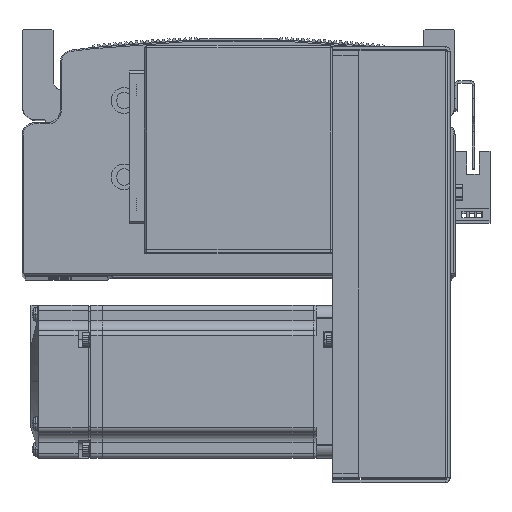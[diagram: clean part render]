
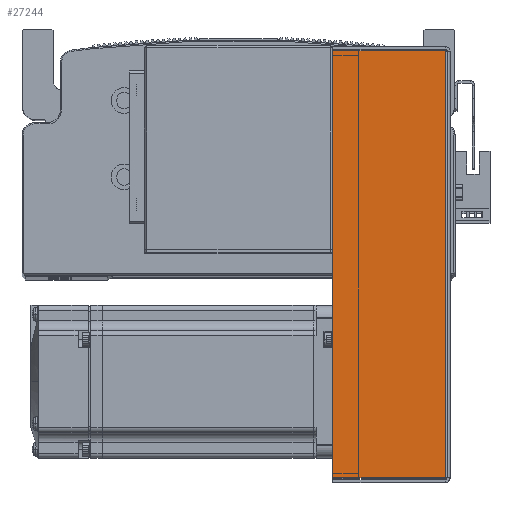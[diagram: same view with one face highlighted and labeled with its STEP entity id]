
A CAD part, top view. The second image highlights one B-rep face of the part: STEP entity #27244.
In plain terms, the highlighted planar face has unit normal (0, 0, 1) as drawn and (0, 0, -1) by its records, which use the part's own axes.
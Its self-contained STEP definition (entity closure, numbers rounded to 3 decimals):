
#5076 = EDGE_CURVE ( 'NONE', #38077, #38317, #18812, .T. ) ;
#5080 = EDGE_CURVE ( 'NONE', #38077, #38147, #18836, .T. ) ;
#5088 = EDGE_CURVE ( 'NONE', #38317, #38141, #18843, .T. ) ;
#5090 = EDGE_CURVE ( 'NONE', #38147, #38141, #18840, .T. ) ;
#18804 = VECTOR ( 'NONE', #81633, 1000. ) ;
#18811 = VECTOR ( 'NONE', #81609, 1000. ) ;
#18812 = LINE ( 'NONE', #81551, #18845 ) ;
#18836 = LINE ( 'NONE', #81534, #18851 ) ;
#18840 = LINE ( 'NONE', #81624, #18804 ) ;
#18843 = LINE ( 'NONE', #81599, #18811 ) ;
#18845 = VECTOR ( 'NONE', #81542, 1000. ) ;
#18851 = VECTOR ( 'NONE', #81559, 1000. ) ;
#21289 = FACE_OUTER_BOUND ( 'NONE', #43732, .T. ) ;
#27244 = ADVANCED_FACE ( 'NONE', ( #21289 ), #47878, .F. ) ;
#38077 = VERTEX_POINT ( 'NONE', #45024 ) ;
#38141 = VERTEX_POINT ( 'NONE', #45019 ) ;
#38147 = VERTEX_POINT ( 'NONE', #45103 ) ;
#38317 = VERTEX_POINT ( 'NONE', #45148 ) ;
#43732 = EDGE_LOOP ( 'NONE', ( #79167, #79080, #79152, #79164 ) ) ;
#45019 = CARTESIAN_POINT ( 'NONE',  ( 83.793, 45., -40.5 ) ) ;
#45024 = CARTESIAN_POINT ( 'NONE',  ( -83.793, 0.737, -40.5 ) ) ;
#45103 = CARTESIAN_POINT ( 'NONE',  ( -83.793, 45., -40.5 ) ) ;
#45148 = CARTESIAN_POINT ( 'NONE',  ( 83.793, 0.737, -40.5 ) ) ;
#47856 = CARTESIAN_POINT ( 'NONE',  ( 0., 0., -40.5 ) ) ;
#47862 = DIRECTION ( 'NONE',  ( 0., 0., 1. ) ) ;
#47864 = DIRECTION ( 'NONE',  ( 0., -1., 0. ) ) ;
#47878 = PLANE ( 'NONE',  #80599 ) ;
#79080 = ORIENTED_EDGE ( 'NONE', *, *, #5080, .T. ) ;
#79152 = ORIENTED_EDGE ( 'NONE', *, *, #5090, .T. ) ;
#79164 = ORIENTED_EDGE ( 'NONE', *, *, #5088, .F. ) ;
#79167 = ORIENTED_EDGE ( 'NONE', *, *, #5076, .F. ) ;
#80599 = AXIS2_PLACEMENT_3D ( 'NONE', #47856, #47862, #47864 ) ;
#81534 = CARTESIAN_POINT ( 'NONE',  ( -83.793, 0., -40.5 ) ) ;
#81542 = DIRECTION ( 'NONE',  ( 1., 0., 0. ) ) ;
#81551 = CARTESIAN_POINT ( 'NONE',  ( 0., 0.737, -40.5 ) ) ;
#81559 = DIRECTION ( 'NONE',  ( 0., 1., 0. ) ) ;
#81599 = CARTESIAN_POINT ( 'NONE',  ( 83.793, 0., -40.5 ) ) ;
#81609 = DIRECTION ( 'NONE',  ( 0., 1., 0. ) ) ;
#81624 = CARTESIAN_POINT ( 'NONE',  ( 84.5, 45., -40.5 ) ) ;
#81633 = DIRECTION ( 'NONE',  ( 1., 0., 0. ) ) ;
